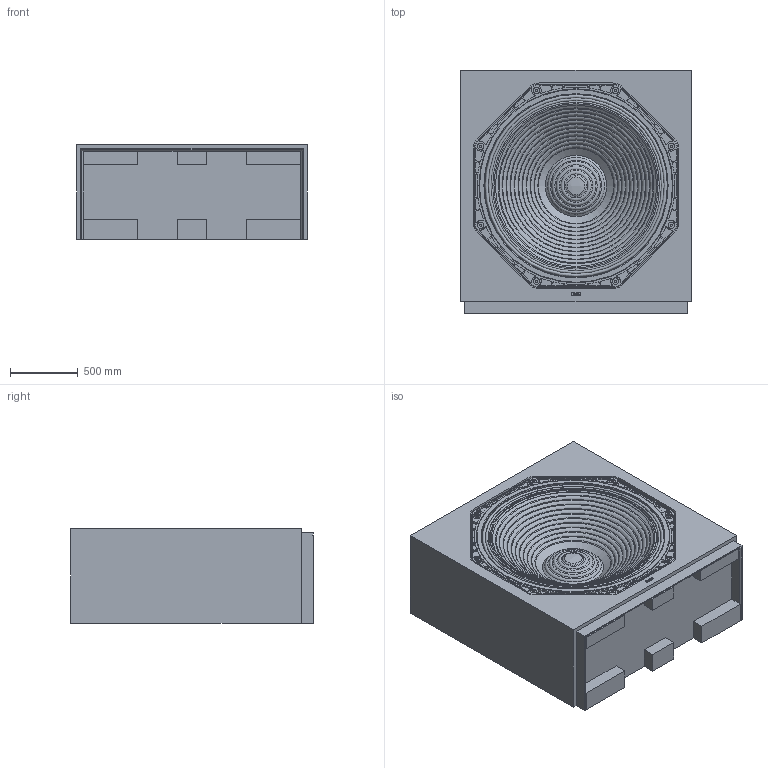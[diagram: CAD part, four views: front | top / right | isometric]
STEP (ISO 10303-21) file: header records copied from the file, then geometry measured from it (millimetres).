
FILE_DESCRIPTION(/* description */ (''),/* implementation_level */ '2;1');
FILE_NAME(/* name */ '3D Drawings THE64_SUB_PRO_PS_700mm.step',/* time_stamp */ '2025-10-08T15:19:32+02:00',/* author */ (''),/* organization */ (''),/* preprocessor_version */ 'ST-DEVELOPER v20.1',/* originating_system */ 'Autodesk Translation Framework v14.17.0.0',/* authorisation */ '');
FILE_SCHEMA (('AUTOMOTIVE_DESIGN { 1 0 10303 214 3 1 1 }'));
Products named in the file (1): 3D Drawings THE64_SUB_PRO_PS_700mm
Bounding box: 1700 x 1790 x 700 mm (x, y, z)
Volume: 1870882214.2 mm3; surface area: 15280972 mm2
Topology: 58 solids, 62 shells, 2316 faces, 6006 edges, 3954 vertices
Faces by surface type: plane 1077, cylinder 833, bspline 264, torus 93, cone 39, sphere 10
Full cylindrical faces by diameter (mm): 3 x6, 4.5 x6, 5 x1, 6 x8, 14.9 x1, 16 x8, 17.6 x1, 21 x1, 23.6 x1, 24.25 x1, 25.9 x1, 26.5 x1, 47 x8, 1350 x1, 1430 x1
Entity records: 77827 total; most frequent: CARTESIAN_POINT 20902, ORIENTED_EDGE 12010, DIRECTION 11705, EDGE_CURVE 6005, AXIS2_PLACEMENT_3D 4167, VERTEX_POINT 3955, LINE 3371, VECTOR 3371
